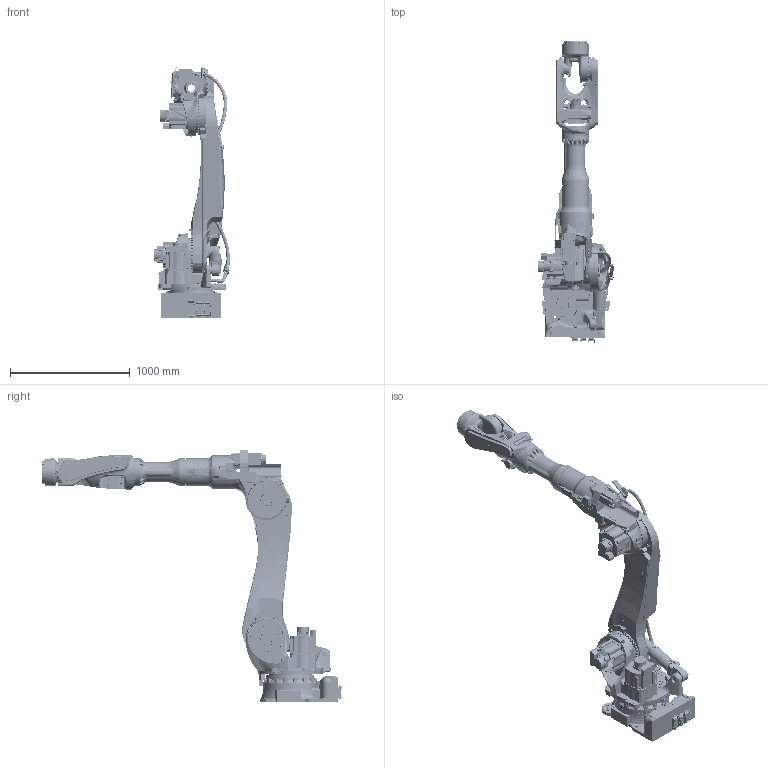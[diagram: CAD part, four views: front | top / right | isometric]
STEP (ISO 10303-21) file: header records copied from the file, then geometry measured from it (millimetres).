
FILE_DESCRIPTION(('CATIA V5 STEP','CAx-IF Rec.Pracs.--- Composite Materials ---3.4---2017-06-13'),'2;1');
FILE_NAME('D:\モデリング\※次期OLP\MODEL_ROBOT\MODEL_ROBOT_4 再保存最終版 221027~\Bシリーズ\BX130X-C001\CATProduct\STEP_230303\BX130X-C001.stp','2023-03-03T02:05:46+00:00',('none'),('none'),'CATIA Version 5-6 Release 2020 SP4 HF11','CATIA V5 STEP AP203 v2','none');
FILE_SCHEMA(('CONFIG_CONTROL_DESIGN'));
Products named in the file (1): BX130X-C001
Assembly tree (9 placements, depth 2):
  BX130X-C001
    #57
    #44454
    #83870
    #92934
    #97299
    #142027
    #191790
    #306919
    #359342
Bounding box: 631.74 x 2508.75 x 2107.57 mm (x, y, z)
Volume: 214404091 mm3; surface area: 11039135 mm2
Topology: 31 solids, 37 shells, 8357 faces, 21853 edges, 14026 vertices
Faces by surface type: plane 3302, cylinder 2785, bspline 949, cone 560, extrusion 355, torus 231, revolution 116, sphere 59
Entity records: 362623 total; most frequent: CARTESIAN_POINT 184516, ORIENTED_EDGE 43204, DIRECTION 24337, EDGE_CURVE 21602, VERTEX_POINT 14020, AXIS2_PLACEMENT_3D 10185, VECTOR 9857, LINE 9502
